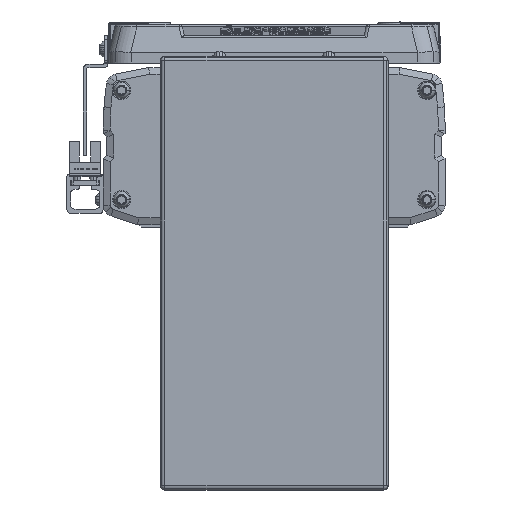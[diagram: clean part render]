
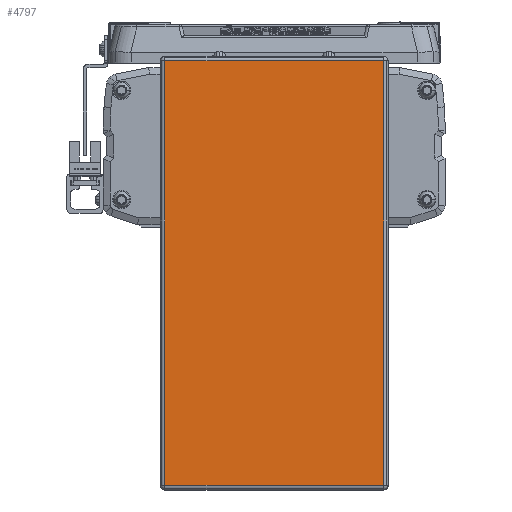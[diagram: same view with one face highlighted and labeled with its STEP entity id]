
A CAD part, left-side view. The second image highlights one B-rep face of the part: STEP entity #4797.
In plain terms, the highlighted planar face has unit normal (-1, 0, 0).
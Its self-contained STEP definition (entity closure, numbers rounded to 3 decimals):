
#4797=ADVANCED_FACE('',(#11287),#11288,.T.);
#11287=FACE_OUTER_BOUND('',#20487,.T.);
#11288=PLANE('',#20488);
#20487=EDGE_LOOP('',(#34315,#34316,#34317,#34318));
#20488=AXIS2_PLACEMENT_3D('',#34319,#34320,#34321);
#34315=ORIENTED_EDGE('',*,*,#55582,.F.);
#34316=ORIENTED_EDGE('',*,*,#55583,.F.);
#34317=ORIENTED_EDGE('',*,*,#55584,.F.);
#34318=ORIENTED_EDGE('',*,*,#55585,.F.);
#34319=CARTESIAN_POINT('',(-45.,0.,-64.2));
#34320=DIRECTION('',(-1.0,0.,0.));
#34321=DIRECTION('',(0.,1.0,0.));
#55582=EDGE_CURVE('',#67851,#67852,#67853,.T.);
#55583=EDGE_CURVE('',#67486,#67851,#67854,.T.);
#55584=EDGE_CURVE('',#67855,#67486,#67856,.T.);
#55585=EDGE_CURVE('',#67852,#67855,#67857,.T.);
#67486=VERTEX_POINT('',#84159);
#67851=VERTEX_POINT('',#84668);
#67852=VERTEX_POINT('',#84669);
#67853=LINE('',#84670,#84671);
#67854=LINE('',#84672,#84673);
#67855=VERTEX_POINT('',#84674);
#67856=LINE('',#84675,#84676);
#67857=LINE('',#84677,#84678);
#84159=CARTESIAN_POINT('',(-45.,48.,-157.4));
#84668=CARTESIAN_POINT('',(-45.,48.,29.));
#84669=CARTESIAN_POINT('',(-45.,-48.,29.));
#84670=CARTESIAN_POINT('',(-45.,0.,29.));
#84671=VECTOR('',#100055,10.0);
#84672=CARTESIAN_POINT('',(-45.,48.,-64.2));
#84673=VECTOR('',#100056,10.0);
#84674=CARTESIAN_POINT('',(-45.,-48.,-157.4));
#84675=CARTESIAN_POINT('',(-45.,0.,-157.4));
#84676=VECTOR('',#100057,10.0);
#84677=CARTESIAN_POINT('',(-45.,-48.,-64.2));
#84678=VECTOR('',#100058,10.0);
#100055=DIRECTION('',(0.0,-1.0,0.));
#100056=DIRECTION('',(0.,0.,1.0));
#100057=DIRECTION('',(0.0,1.0,0.));
#100058=DIRECTION('',(0.,0.,-1.0));
